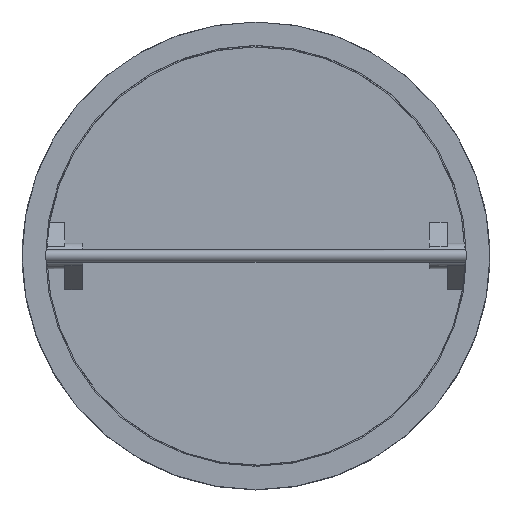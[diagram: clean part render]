
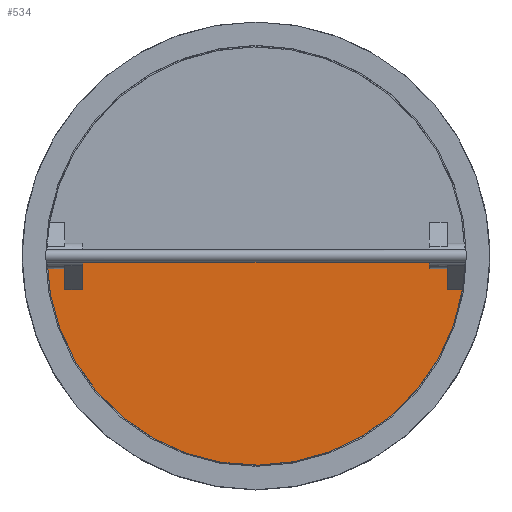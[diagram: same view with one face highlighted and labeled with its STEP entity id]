
A CAD part, top view. The second image highlights one B-rep face of the part: STEP entity #534.
In plain terms, the highlighted planar face has unit normal (0, 0, 1).
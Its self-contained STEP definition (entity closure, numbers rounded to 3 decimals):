
#534=ADVANCED_FACE('',(#1119),#1121,.T.);
#1119=FACE_BOUND('',#1120,.T.);
#1120=EDGE_LOOP('',(#1530,#1531,#1532,#1533,#1534,#1535,#1536,#1537));
#1121=PLANE('',#1122);
#1122=AXIS2_PLACEMENT_3D('',#1123,#1124,#1125);
#1123=CARTESIAN_POINT('',(0.,0.,61.));
#1124=DIRECTION('',(0.,0.,1.));
#1125=DIRECTION('',(0.,1.,0.));
#1530=ORIENTED_EDGE('',*,*,#1796,.F.);
#1531=ORIENTED_EDGE('',*,*,#1797,.F.);
#1532=ORIENTED_EDGE('',*,*,#1758,.T.);
#1533=ORIENTED_EDGE('',*,*,#1768,.T.);
#1534=ORIENTED_EDGE('',*,*,#1798,.F.);
#1535=ORIENTED_EDGE('',*,*,#1799,.F.);
#1536=ORIENTED_EDGE('',*,*,#1762,.T.);
#1537=ORIENTED_EDGE('',*,*,#1800,.F.);
#1758=EDGE_CURVE('',#2034,#2032,#2035,.T.);
#1762=EDGE_CURVE('',#2042,#2040,#2043,.T.);
#1768=EDGE_CURVE('',#2032,#2051,#2053,.T.);
#1796=EDGE_CURVE('',#2098,#2099,#2100,.T.);
#1797=EDGE_CURVE('',#2034,#2098,#2101,.T.);
#1798=EDGE_CURVE('',#2102,#2051,#2103,.T.);
#1799=EDGE_CURVE('',#2042,#2102,#2104,.T.);
#1800=EDGE_CURVE('',#2099,#2040,#2105,.F.);
#2032=VERTEX_POINT('',#3639);
#2034=VERTEX_POINT('',#3643);
#2035=LINE('',#3644,#3645);
#2040=VERTEX_POINT('',#3655);
#2042=VERTEX_POINT('',#3659);
#2043=LINE('',#3660,#3661);
#2051=VERTEX_POINT('',#3726);
#2053=CIRCLE('',#3731,410.);
#2098=VERTEX_POINT('',#4015);
#2099=VERTEX_POINT('',#4016);
#2100=LINE('',#4017,#4018);
#2101=LINE('',#4020,#4021);
#2102=VERTEX_POINT('',#4023);
#2103=LINE('',#4024,#4025);
#2104=LINE('',#4027,#4028);
#2105=LINE('',#4030,#4031);
#3639=CARTESIAN_POINT('',(-409.98,-4.,61.));
#3643=CARTESIAN_POINT('',(-375.02,-4.,61.));
#3644=CARTESIAN_POINT('',(-375.02,-4.,61.));
#3645=VECTOR('',#3646,1.);
#3646=DIRECTION('',(-1.,0.,0.));
#3655=CARTESIAN_POINT('',(-340.02,-4.,61.));
#3659=CARTESIAN_POINT('',(374.98,-4.,61.));
#3660=CARTESIAN_POINT('',(374.98,-4.,61.));
#3661=VECTOR('',#3662,1.);
#3662=DIRECTION('',(-1.,0.,0.));
#3726=CARTESIAN_POINT('',(404.62,-66.199,61.));
#3731=AXIS2_PLACEMENT_3D('',#3732,#3733,#3734);
#3732=CARTESIAN_POINT('',(0.,0.,61.));
#3733=DIRECTION('',(0.,0.,1.));
#3734=DIRECTION('',(-1.,-0.01,0.));
#4015=CARTESIAN_POINT('',(-375.02,-66.199,61.));
#4016=CARTESIAN_POINT('',(-340.02,-66.199,61.));
#4017=CARTESIAN_POINT('',(-375.02,-66.199,61.));
#4018=VECTOR('',#4019,1.);
#4019=DIRECTION('',(1.,0.,0.));
#4020=CARTESIAN_POINT('',(-375.02,-4.,61.));
#4021=VECTOR('',#4022,1.);
#4022=DIRECTION('',(0.,-1.,0.));
#4023=CARTESIAN_POINT('',(374.98,-66.199,61.));
#4024=CARTESIAN_POINT('',(374.98,-66.199,61.));
#4025=VECTOR('',#4026,1.);
#4026=DIRECTION('',(1.,0.,0.));
#4027=CARTESIAN_POINT('',(374.98,-4.,61.));
#4028=VECTOR('',#4029,1.);
#4029=DIRECTION('',(0.,-1.,0.));
#4030=CARTESIAN_POINT('',(-340.02,-4.,61.));
#4031=VECTOR('',#4032,1.);
#4032=DIRECTION('',(0.,-1.,0.));
